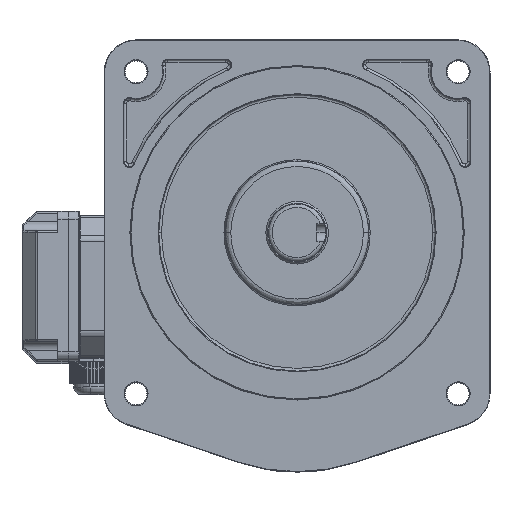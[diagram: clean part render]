
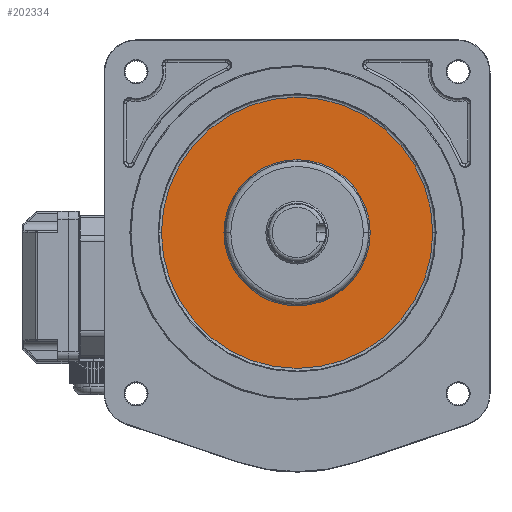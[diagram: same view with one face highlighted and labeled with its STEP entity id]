
A CAD part, top view. The second image highlights one B-rep face of the part: STEP entity #202334.
In plain terms, the highlighted planar face has unit normal (0, 0, 1).
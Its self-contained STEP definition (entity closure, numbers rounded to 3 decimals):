
#3601 = VERTEX_POINT ( 'NONE', #27564 ) ;
#20131 = DIRECTION ( 'NONE',  ( 1., 0., 0. ) ) ;
#20509 = EDGE_LOOP ( 'NONE', ( #78200, #59621 ) ) ;
#21789 = EDGE_CURVE ( 'NONE', #233842, #3601, #154191, .T. ) ;
#27246 = DIRECTION ( 'NONE',  ( 0., 0., 1. ) ) ;
#27564 = CARTESIAN_POINT ( 'NONE',  ( 75.929, 30., 114. ) ) ;
#29008 = CIRCLE ( 'NONE', #162900, 25.464 ) ;
#35585 = EDGE_CURVE ( 'NONE', #142233, #188345, #29008, .T. ) ;
#38131 = PLANE ( 'NONE',  #147635 ) ;
#46234 = CARTESIAN_POINT ( 'NONE',  ( -75.929, 30., 114. ) ) ;
#50865 = AXIS2_PLACEMENT_3D ( 'NONE', #191356, #27246, #100354 ) ;
#57288 = DIRECTION ( 'NONE',  ( 0., 0., 1. ) ) ;
#58419 = CIRCLE ( 'NONE', #89027, 25.464 ) ;
#59621 = ORIENTED_EDGE ( 'NONE', *, *, #85129, .F. ) ;
#61911 = DIRECTION ( 'NONE',  ( 1., 0., 0. ) ) ;
#74636 = EDGE_LOOP ( 'NONE', ( #190139, #132975 ) ) ;
#78200 = ORIENTED_EDGE ( 'NONE', *, *, #35585, .F. ) ;
#79869 = DIRECTION ( 'NONE',  ( 0., 0., 1. ) ) ;
#85129 = EDGE_CURVE ( 'NONE', #188345, #142233, #58419, .T. ) ;
#89027 = AXIS2_PLACEMENT_3D ( 'NONE', #221399, #57288, #130396 ) ;
#92592 = CARTESIAN_POINT ( 'NONE',  ( -25.464, 30., 114. ) ) ;
#97868 = CARTESIAN_POINT ( 'NONE',  ( 0., 30., 114. ) ) ;
#100354 = DIRECTION ( 'NONE',  ( 1., 0., 0. ) ) ;
#110717 = CARTESIAN_POINT ( 'NONE',  ( 25.464, 30., 114. ) ) ;
#111239 = CARTESIAN_POINT ( 'NONE',  ( 90., 120., 114. ) ) ;
#126783 = AXIS2_PLACEMENT_3D ( 'NONE', #97868, #226036, #61911 ) ;
#129228 = FACE_BOUND ( 'NONE', #20509, .T. ) ;
#130396 = DIRECTION ( 'NONE',  ( -1., 0., 0. ) ) ;
#132975 = ORIENTED_EDGE ( 'NONE', *, *, #21789, .T. ) ;
#136817 = EDGE_CURVE ( 'NONE', #3601, #233842, #230043, .T. ) ;
#142233 = VERTEX_POINT ( 'NONE', #92592 ) ;
#147635 = AXIS2_PLACEMENT_3D ( 'NONE', #111239, #184266, #20131 ) ;
#152951 = DIRECTION ( 'NONE',  ( -1., 0., 0. ) ) ;
#154191 = CIRCLE ( 'NONE', #50865, 75.929 ) ;
#162900 = AXIS2_PLACEMENT_3D ( 'NONE', #188857, #79869, #152951 ) ;
#184266 = DIRECTION ( 'NONE',  ( 0., 0., 1. ) ) ;
#188345 = VERTEX_POINT ( 'NONE', #110717 ) ;
#188857 = CARTESIAN_POINT ( 'NONE',  ( 0., 30., 114. ) ) ;
#190139 = ORIENTED_EDGE ( 'NONE', *, *, #136817, .T. ) ;
#191356 = CARTESIAN_POINT ( 'NONE',  ( 0., 30., 114. ) ) ;
#202218 = FACE_OUTER_BOUND ( 'NONE', #74636, .T. ) ;
#202334 = ADVANCED_FACE ( 'NONE', ( #129228, #202218 ), #38131, .T. ) ;
#221399 = CARTESIAN_POINT ( 'NONE',  ( 0., 30., 114. ) ) ;
#226036 = DIRECTION ( 'NONE',  ( 0., 0., 1. ) ) ;
#230043 = CIRCLE ( 'NONE', #126783, 75.929 ) ;
#233842 = VERTEX_POINT ( 'NONE', #46234 ) ;
